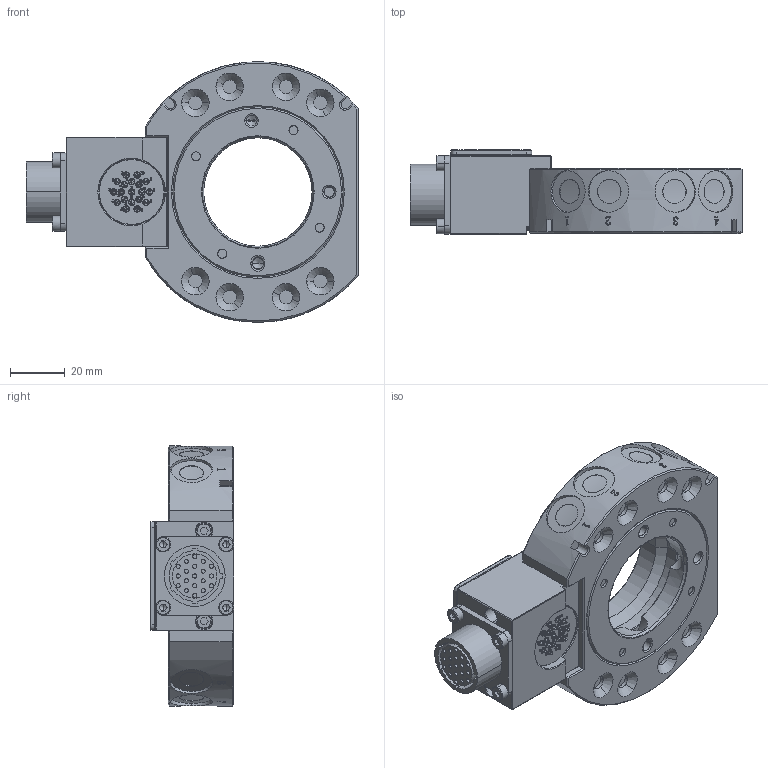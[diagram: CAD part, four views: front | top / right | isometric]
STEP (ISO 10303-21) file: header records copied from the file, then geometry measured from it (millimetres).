
FILE_DESCRIPTION (( 'STEP AP214' ), '1' );
FILE_NAME ('SQ-25T.STEP', '2020-10-16T05:06:17', ( '' ), ( '' ), 'SwSTEP 2.0', 'SolidWorks 2018', '' );
FILE_SCHEMA (( 'AUTOMOTIVE_DESIGN' ));
Length unit declared in the file: millimetre
Products named in the file (1): SQ-25T
Bounding box: 121 x 30.6 x 95 mm (x, y, z)
Volume: 148765.4 mm3; surface area: 38830.7 mm2
Topology: 1 solids, 105 shells, 2624 faces, 6608 edges, 4130 vertices
Faces by surface type: cone 751, plane 712, cylinder 675, bspline 399, torus 49, sphere 38
Entity records: 132963 total; most frequent: CARTESIAN_POINT 43756, ORIENTED_EDGE 12980, DIRECTION 12319, EDGE_CURVE 6490, AXIS2_PLACEMENT_3D 4700, VERTEX_POINT 4092, VECTOR 2919, LINE 2919
